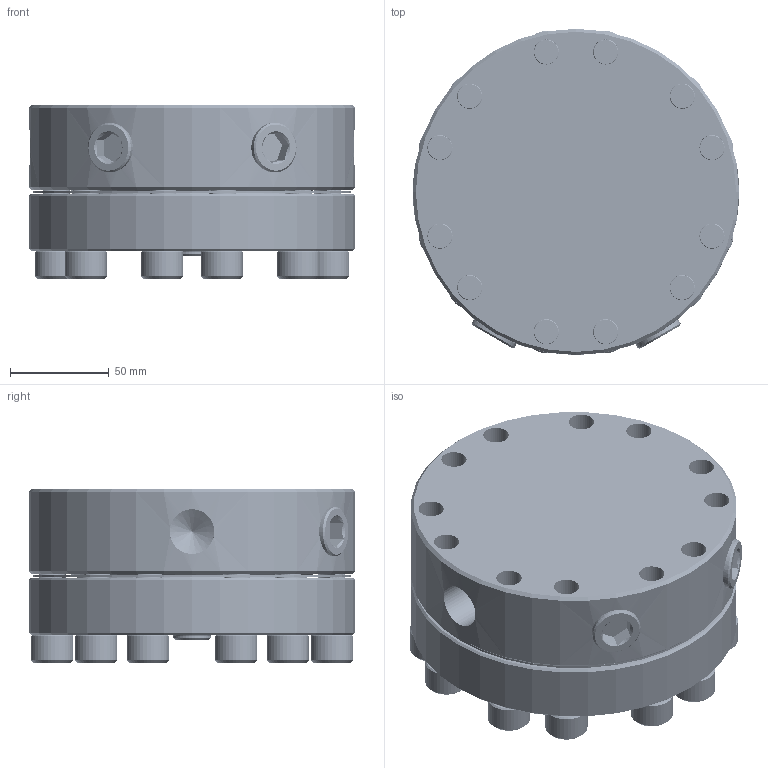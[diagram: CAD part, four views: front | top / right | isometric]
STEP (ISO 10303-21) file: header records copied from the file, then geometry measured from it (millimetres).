
FILE_DESCRIPTION(/* description */ (''),/* implementation_level */ '2;1');
FILE_NAME(/* name */ 'Z:\Models\GS Series\GS6\External Models\GSDH6SNX5 External Assembly.stp',/* time_stamp */ '2018-01-10T13:17:05-05:00',/* author */ ('Owner'),/* organization */ (''),/* preprocessor_version */ 'ST-DEVELOPER v15.6',/* originating_system */ 'Autodesk Inventor 2015',/* authorisation */ '');
FILE_SCHEMA (('CONFIG_CONTROL_DESIGN'));
Length unit declared in the file: inch
Products named in the file (8): GSD6 Ref. Cap HP 3000 Metal; GSD6 HP 3000 DIAPHRAGM; GSD6 Metal TR HP 3000; Countersunk Hex-Head Plug 219P-12; Oring - 047; Oring - 048; 91251A699; GSD6 HP3000
Assembly tree (19 placements, depth 2):
  GSD6 HP3000
    GSD6 Ref. Cap HP 3000 Metal
    GSD6 HP 3000 DIAPHRAGM
    GSD6 Metal TR HP 3000
    Countersunk Hex-Head Plug 219P-12  x2
    Oring - 047
    Oring - 048
    91251A699  x12
Bounding box: 165.1 x 165.1 x 88.1 mm (x, y, z)
Volume: 1391666.5 mm3; surface area: 281891.3 mm2
Topology: 19 solids, 19 shells, 463 faces, 1084 edges, 687 vertices
Faces by surface type: plane 188, cone 128, cylinder 116, bspline 24, torus 7
Full cylindrical faces by diameter (mm): 2.381 x1, 8.611 x1, 12.751 x12, 14.681 x24, 19.05 x1, 21.431 x12, 22.622 x6, 111.963 x1, 116.84 x1, 118.288 x1, 123.165 x1, 161.19 x1, 165.1 x2
Entity records: 10546 total; most frequent: CARTESIAN_POINT 6630, DIRECTION 805, ORIENTED_EDGE 616, AXIS2_PLACEMENT_3D 355, EDGE_LOOP 318, EDGE_CURVE 308, VERTEX_POINT 244, CIRCLE 166
